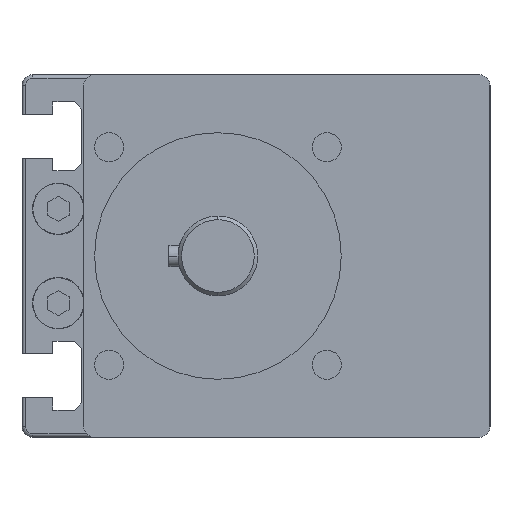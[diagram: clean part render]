
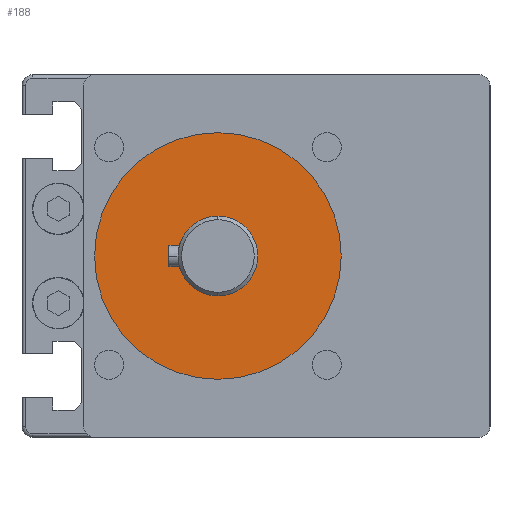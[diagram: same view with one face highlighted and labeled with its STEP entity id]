
A CAD part, left-side view. The second image highlights one B-rep face of the part: STEP entity #188.
In plain terms, the highlighted planar face has unit normal (-1, 0, 0) as drawn and (1, 0, 0) by its records, which use the part's own axes.
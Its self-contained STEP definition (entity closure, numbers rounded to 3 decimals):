
#188 = ADVANCED_FACE ( 'NONE', ( #3666, #3652 ), #7637, .T. ) ;
#306 = AXIS2_PLACEMENT_3D ( 'NONE', #6128, #6499, #507 ) ;
#507 = DIRECTION ( 'NONE',  ( 0., 0., -1. ) ) ;
#589 = CIRCLE ( 'NONE', #8738, 34. ) ;
#1157 = EDGE_CURVE ( 'NONE', #1902, #7438, #5183, .T. ) ;
#1243 = CARTESIAN_POINT ( 'NONE',  ( -2., 0., -11. ) ) ;
#1902 = VERTEX_POINT ( 'NONE', #1243 ) ;
#2594 = VERTEX_POINT ( 'NONE', #8539 ) ;
#3195 = AXIS2_PLACEMENT_3D ( 'NONE', #5186, #5172, #5049 ) ;
#3304 = EDGE_CURVE ( 'NONE', #2594, #5130, #7819, .T. ) ;
#3596 = EDGE_LOOP ( 'NONE', ( #9327, #9121 ) ) ;
#3652 = FACE_BOUND ( 'NONE', #5727, .T. ) ;
#3666 = FACE_OUTER_BOUND ( 'NONE', #3596, .T. ) ;
#4562 = CIRCLE ( 'NONE', #306, 11. ) ;
#5006 = CARTESIAN_POINT ( 'NONE',  ( -2., 0., 0. ) ) ;
#5049 = DIRECTION ( 'NONE',  ( 0., 0., -1. ) ) ;
#5105 = DIRECTION ( 'NONE',  ( 1., 0., 0. ) ) ;
#5130 = VERTEX_POINT ( 'NONE', #9489 ) ;
#5172 = DIRECTION ( 'NONE',  ( 1., 0., 0. ) ) ;
#5183 = CIRCLE ( 'NONE', #6537, 11. ) ;
#5186 = CARTESIAN_POINT ( 'NONE',  ( -2., 0., 0. ) ) ;
#5491 = ORIENTED_EDGE ( 'NONE', *, *, #1157, .F. ) ;
#5727 = EDGE_LOOP ( 'NONE', ( #7974, #5491 ) ) ;
#5848 = EDGE_CURVE ( 'NONE', #7438, #1902, #4562, .T. ) ;
#6128 = CARTESIAN_POINT ( 'NONE',  ( -2., 0., 0. ) ) ;
#6499 = DIRECTION ( 'NONE',  ( 1., 0., 0. ) ) ;
#6537 = AXIS2_PLACEMENT_3D ( 'NONE', #5006, #5105, #9267 ) ;
#7076 = CARTESIAN_POINT ( 'NONE',  ( -2., 0., 11. ) ) ;
#7438 = VERTEX_POINT ( 'NONE', #7076 ) ;
#7461 = DIRECTION ( 'NONE',  ( 0., 0., -1. ) ) ;
#7477 = DIRECTION ( 'NONE',  ( 1., 0., 0. ) ) ;
#7491 = AXIS2_PLACEMENT_3D ( 'NONE', #7531, #7477, #7461 ) ;
#7531 = CARTESIAN_POINT ( 'NONE',  ( -2., 0., 0. ) ) ;
#7637 = PLANE ( 'NONE',  #7491 ) ;
#7819 = CIRCLE ( 'NONE', #3195, 34. ) ;
#7974 = ORIENTED_EDGE ( 'NONE', *, *, #5848, .F. ) ;
#8539 = CARTESIAN_POINT ( 'NONE',  ( -2., 0., -34. ) ) ;
#8714 = EDGE_CURVE ( 'NONE', #5130, #2594, #589, .T. ) ;
#8738 = AXIS2_PLACEMENT_3D ( 'NONE', #9513, #9451, #9385 ) ;
#9121 = ORIENTED_EDGE ( 'NONE', *, *, #8714, .T. ) ;
#9267 = DIRECTION ( 'NONE',  ( 0., 0., -1. ) ) ;
#9327 = ORIENTED_EDGE ( 'NONE', *, *, #3304, .T. ) ;
#9385 = DIRECTION ( 'NONE',  ( 0., 0., -1. ) ) ;
#9451 = DIRECTION ( 'NONE',  ( 1., 0., 0. ) ) ;
#9489 = CARTESIAN_POINT ( 'NONE',  ( -2., 0., 34. ) ) ;
#9513 = CARTESIAN_POINT ( 'NONE',  ( -2., 0., 0. ) ) ;
